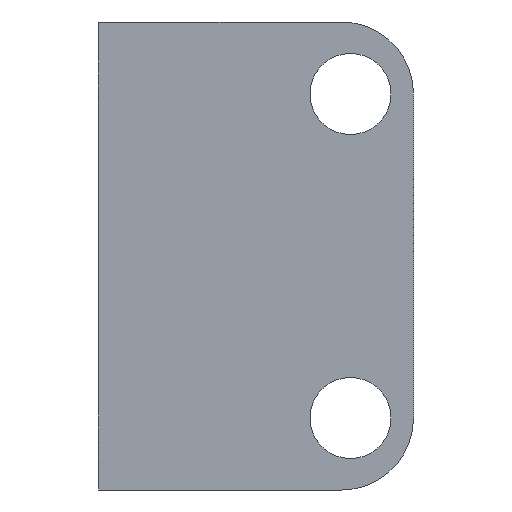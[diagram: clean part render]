
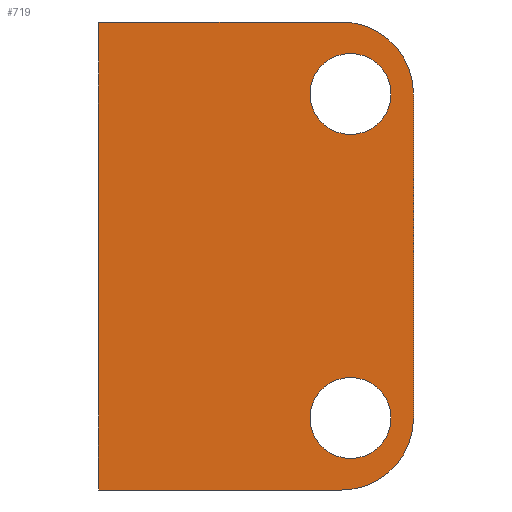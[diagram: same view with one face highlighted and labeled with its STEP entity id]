
A CAD part, front view. The second image highlights one B-rep face of the part: STEP entity #719.
In plain terms, the highlighted planar face has unit normal (0, -1, 0).
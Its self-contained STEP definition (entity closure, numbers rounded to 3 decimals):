
#60=CARTESIAN_POINT('',(27.0,-8.0,-18.0));
#61=VERTEX_POINT('',#60);
#68=CARTESIAN_POINT('',(19.0,-8.0,-26.0));
#69=VERTEX_POINT('',#68);
#70=CARTESIAN_POINT('',(19.0,-8.0,-18.0));
#71=DIRECTION('',(0.0,1.,0.0));
#72=DIRECTION('',(0.707,0.0,-0.707));
#73=AXIS2_PLACEMENT_3D('',#70,#71,#72);
#74=CIRCLE('',#73,8.);
#75=EDGE_CURVE('',#61,#69,#74,.T.);
#100=CARTESIAN_POINT('',(27.0,-8.0,18.0));
#101=VERTEX_POINT('',#100);
#108=CARTESIAN_POINT('',(27.0,-8.0,-18.0));
#109=DIRECTION('',(0.0,0.0,1.0));
#110=VECTOR('',#109,36.0);
#111=LINE('',#108,#110);
#112=EDGE_CURVE('',#61,#101,#111,.T.);
#185=CARTESIAN_POINT('',(19.0,-8.0,26.0));
#186=VERTEX_POINT('',#185);
#187=CARTESIAN_POINT('',(19.0,-8.0,18.0));
#188=DIRECTION('',(0.0,1.,0.0));
#189=DIRECTION('',(0.707,0.0,0.707));
#190=AXIS2_PLACEMENT_3D('',#187,#188,#189);
#191=CIRCLE('',#190,8.);
#192=EDGE_CURVE('',#186,#101,#191,.T.);
#228=CARTESIAN_POINT('',(-8.0,-8.0,26.0));
#229=VERTEX_POINT('',#228);
#236=CARTESIAN_POINT('',(19.0,-8.0,26.0));
#237=DIRECTION('',(-1.0,0.0,0.0));
#238=VECTOR('',#237,27.0);
#239=LINE('',#236,#238);
#240=EDGE_CURVE('',#186,#229,#239,.T.);
#324=CARTESIAN_POINT('',(-8.0,-8.0,-26.0));
#325=VERTEX_POINT('',#324);
#332=CARTESIAN_POINT('',(-8.0,-8.0,-26.0));
#333=DIRECTION('',(0.0,0.0,1.0));
#334=VECTOR('',#333,52.0);
#335=LINE('',#332,#334);
#336=EDGE_CURVE('',#325,#229,#335,.T.);
#592=CARTESIAN_POINT('',(24.5,-8.0,18.));
#593=VERTEX_POINT('',#592);
#594=CARTESIAN_POINT('',(20.0,-8.0,18.));
#595=DIRECTION('',(0.0,1.0,0.0));
#596=DIRECTION('',(-1.0,0.0,0.0));
#597=AXIS2_PLACEMENT_3D('',#594,#595,#596);
#598=CIRCLE('',#597,4.5);
#599=EDGE_CURVE('',#593,#593,#598,.T.);
#612=CARTESIAN_POINT('',(24.5,-8.0,-18.));
#613=VERTEX_POINT('',#612);
#614=CARTESIAN_POINT('',(20.0,-8.0,-18.));
#615=DIRECTION('',(0.0,1.0,0.0));
#616=DIRECTION('',(-1.0,0.0,0.0));
#617=AXIS2_PLACEMENT_3D('',#614,#615,#616);
#618=CIRCLE('',#617,4.5);
#619=EDGE_CURVE('',#613,#613,#618,.T.);
#653=CARTESIAN_POINT('',(-8.0,-8.0,-26.0));
#654=DIRECTION('',(1.0,0.0,0.0));
#655=VECTOR('',#654,27.0);
#656=LINE('',#653,#655);
#657=EDGE_CURVE('',#325,#69,#656,.T.);
#700=CARTESIAN_POINT('',(27.0,-8.0,0.0));
#701=DIRECTION('',(0.0,-1.0,0.0));
#702=DIRECTION('',(0.0,0.0,-1.0));
#703=AXIS2_PLACEMENT_3D('',#700,#701,#702);
#704=PLANE('',#703);
#705=ORIENTED_EDGE('',*,*,#75,.F.);
#706=ORIENTED_EDGE('',*,*,#112,.T.);
#707=ORIENTED_EDGE('',*,*,#192,.F.);
#708=ORIENTED_EDGE('',*,*,#240,.T.);
#709=ORIENTED_EDGE('',*,*,#336,.F.);
#710=ORIENTED_EDGE('',*,*,#657,.T.);
#711=EDGE_LOOP('',(#705,#706,#707,#708,#709,#710));
#712=FACE_OUTER_BOUND('',#711,.T.);
#713=ORIENTED_EDGE('',*,*,#599,.T.);
#714=EDGE_LOOP('',(#713));
#715=FACE_BOUND('',#714,.T.);
#716=ORIENTED_EDGE('',*,*,#619,.T.);
#717=EDGE_LOOP('',(#716));
#718=FACE_BOUND('',#717,.T.);
#719=ADVANCED_FACE('',(#712,#715,#718),#704,.T.);
